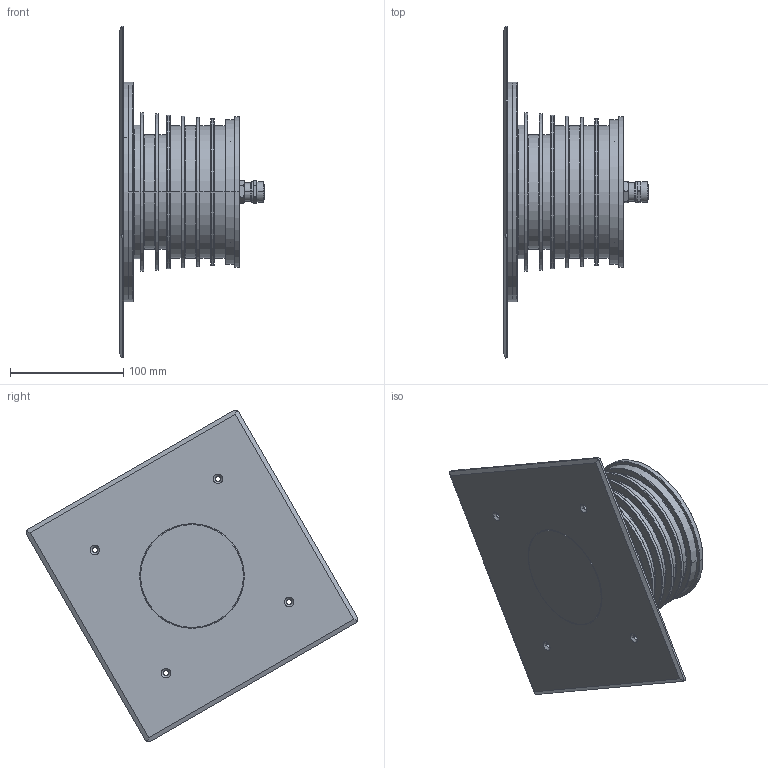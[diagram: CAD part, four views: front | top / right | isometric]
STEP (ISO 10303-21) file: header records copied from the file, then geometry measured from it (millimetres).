
FILE_DESCRIPTION (( 'STEP AP214' ), '1' );
FILE_NAME ('Ground-Big-SQ.STEP', '2023-04-03T06:32:13', ( '' ), ( '' ), 'SwSTEP 2.0', 'SolidWorks 2017', '' );
FILE_SCHEMA (( 'AUTOMOTIVE_DESIGN' ));
Length unit declared in the file: millimetre
Products named in the file (39): DK151110DD31_69; DK151110DD31_32; DK151110DD31_71; DK151110DD31_17; DK151110DD31_34; DK151110DD31_18; DK151110DD31_11; DK151110DD31_27; DK151110DD31_50; DK151110DD31_39; DK151110DD31_8; DK151110DD31_5; DK151110DD31_64; DK151110DD31_10; DK151110DD31; DK151110DD31_14; DK151110DD31_51; DK151110DD31_28; DK151110DD31_42; DK151110DD31_19; DK151110DD31_62; DK151110DD31_52; DK151110DD31_2; DK151110DD31_44; DK151110DD31_21; DK151110DD31_70; DK151110DD31_29; DK151110DD31_45; DK151110DD34; DK151110DD31_53; DK151110DD31_68; DK151110DD31_41; DK151110DD31_46; DK151110DD31_54; Ground-Big-SQ; DK151110DD31_25; DK151110DD31_56; DK151110DD31_16; DK151110DD31_20
Assembly tree (38 placements, depth 2):
  Ground-Big-SQ
    DK151110DD31_62
    DK151110DD31_17
    DK151110DD31_41
    DK151110DD31_53
    DK151110DD31_50
    DK151110DD31_69
    DK151110DD31_16
    DK151110DD31_52
    DK151110DD31_21
    DK151110DD31_68
    DK151110DD31_11
    DK151110DD31_14
    DK151110DD31_25
    DK151110DD31_32
    DK151110DD31_56
    DK151110DD31_28
    DK151110DD31_8
    DK151110DD31_46
    DK151110DD31_10
    DK151110DD31_39
    DK151110DD31_64
    DK151110DD31_19
    DK151110DD31_51
    DK151110DD31_20
    DK151110DD31
    DK151110DD31_27
    DK151110DD31_71
    DK151110DD31_29
    DK151110DD31_45
    DK151110DD31_44
    DK151110DD31_70
    DK151110DD31_18
    DK151110DD31_42
    DK151110DD31_2
    DK151110DD31_34
    DK151110DD31_54
    DK151110DD31_5
    DK151110DD34
Bounding box: 128.2 x 293.55 x 293.55 mm (x, y, z)
Volume: 219803.2 mm3; surface area: 331609 mm2
Topology: 1 solids, 38 shells, 1109 faces, 2653 edges, 1663 vertices
Faces by surface type: plane 420, cylinder 348, cone 309, torus 32
Entity records: 34282 total; most frequent: CARTESIAN_POINT 6317, DIRECTION 5875, ORIENTED_EDGE 5190, EDGE_CURVE 2595, AXIS2_PLACEMENT_3D 2215, VERTEX_POINT 1661, VECTOR 1445, LINE 1445
